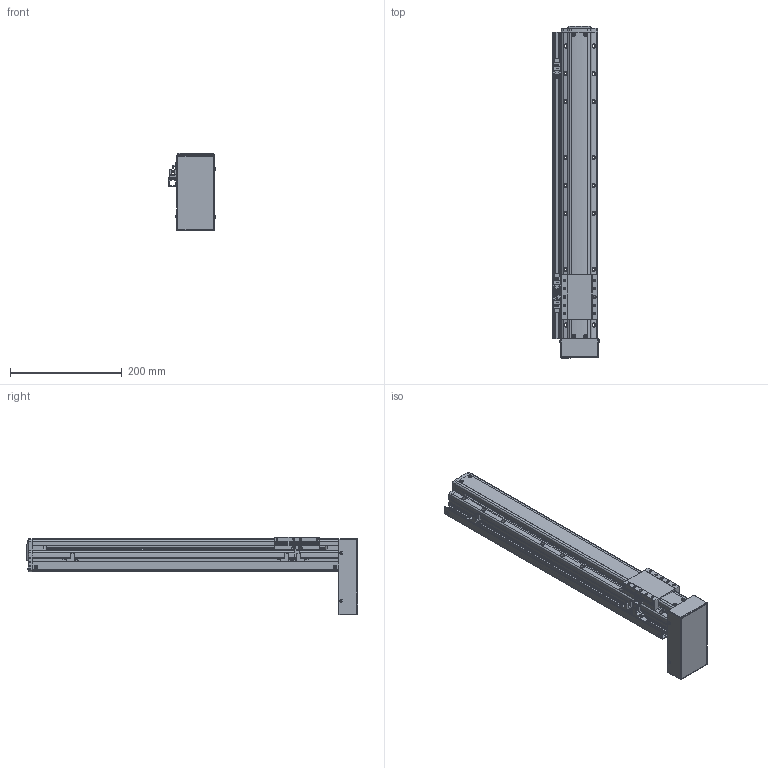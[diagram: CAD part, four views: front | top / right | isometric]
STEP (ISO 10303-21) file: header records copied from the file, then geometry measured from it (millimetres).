
FILE_DESCRIPTION(('STEP AP214'),'1');
FILE_NAME('Z:/Web/3D/PSA65/STP/PSA65-400 (3D)/PSA65ㅁㅁ-400PB+3SL.stp','2014-06-25T04:59:24',(' '),(' '),'Spatial InterOp 3D',' ',' ');
FILE_SCHEMA(('automotive_design'));
Length unit declared in the file: millimetre
Products named in the file (67): SLIDE; RRCV-PA060; 1; 2; 3; 4; 5; 6; 7; 8; 9; 10; 11; 12; 13; 14; 15; 16; 17; 18; 19; 20; 21; 22; 23; 24; 25; 26; 27; 28; 29; 30; 31; 스크루 : Round - M3.0 x 8.0; RN8 x 0.75; SHAFT-SAN65; BASE; 스크루 : Round - M3.0 x 6.0; BTCV-SAN65; M3.0 x 6.0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
Bounding box: 84.06 x 594.8 x 139 mm (x, y, z)
Volume: 2092645.4 mm3; surface area: 339113.7 mm2
Topology: 67 solids, 67 shells, 2248 faces, 5923 edges, 3808 vertices
Faces by surface type: plane 1391, cylinder 581, cone 191, sphere 50, bspline 19, torus 16
Entity records: 89034 total; most frequent: CARTESIAN_POINT 13663, DIRECTION 11926, ORIENTED_EDGE 11610, EDGE_CURVE 5805, LINE 4104, VECTOR 4104, AXIS2_PLACEMENT_3D 3911, VERTEX_POINT 3808
